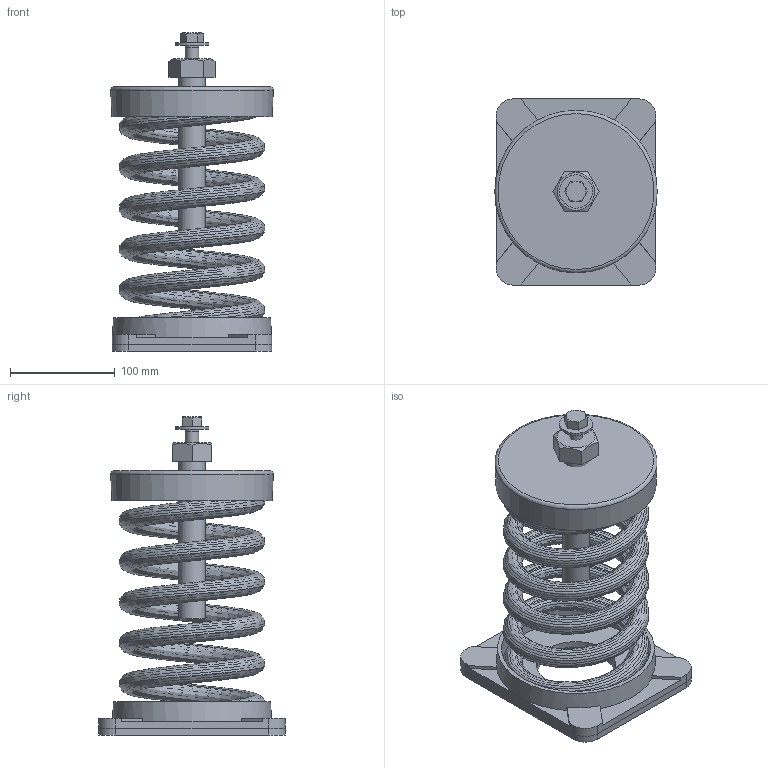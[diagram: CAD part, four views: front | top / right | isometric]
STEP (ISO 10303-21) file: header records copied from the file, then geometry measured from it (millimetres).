
FILE_DESCRIPTION(/* description */ (''),/* implementation_level */ '2;1');
FILE_NAME(/* name */ 'C:\001_Work\Designs\SLF ASSEMBLIES\SLF-134.stp',/* time_stamp */ '2016-01-10T15:49:07-05:00',/* author */ ('rramoutar'),/* organization */ ('Mason Industries Inc.'),/* preprocessor_version */ 'ST-DEVELOPER v15.6',/* originating_system */ 'Autodesk Inventor 2015',/* authorisation */ '');
FILE_SCHEMA (('CONFIG_CONTROL_DESIGN'));
Length unit declared in the file: inch
Products named in the file (1): SLF-134
Bounding box: 155.3 x 177.8 x 303.89 mm (x, y, z)
Volume: 752765.7 mm3; surface area: 456555.8 mm2
Topology: 7 solids, 7 shells, 181 faces, 428 edges, 271 vertices
Faces by surface type: plane 112, cylinder 25, bspline 22, cone 20, torus 2
Full cylindrical faces by diameter (mm): 10.592 x1, 12.7 x5, 13.487 x1, 19.05 x1, 22.225 x1, 25.4 x1, 31.75 x1, 76.2 x2, 142.081 x1, 143.669 x1
Entity records: 15840 total; most frequent: CARTESIAN_POINT 11761, ORIENTED_EDGE 804, DIRECTION 722, EDGE_CURVE 402, VERTEX_POINT 268, AXIS2_PLACEMENT_3D 258, EDGE_LOOP 224, LINE 206
